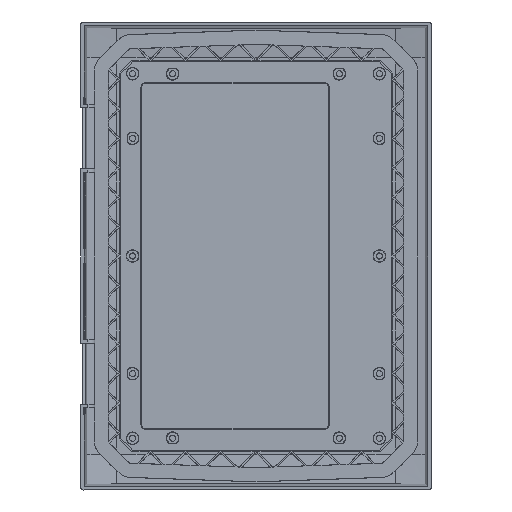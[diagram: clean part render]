
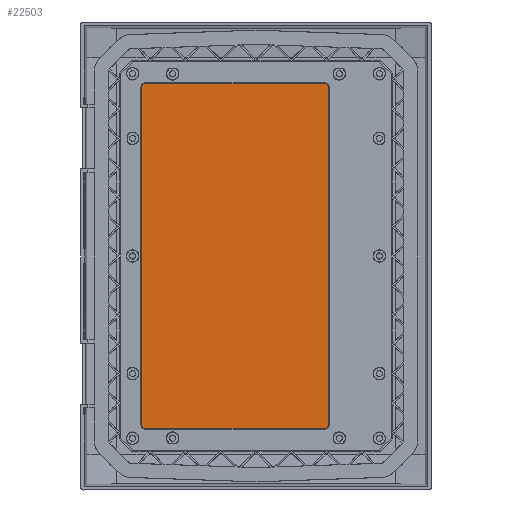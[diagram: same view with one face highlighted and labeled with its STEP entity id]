
A CAD part, front view. The second image highlights one B-rep face of the part: STEP entity #22503.
In plain terms, the highlighted planar face has unit normal (0, -1, 0) as drawn and (0, 0, 1) by its records, which use the part's own axes.
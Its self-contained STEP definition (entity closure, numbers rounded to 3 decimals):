
#423 = CARTESIAN_POINT ( 'NONE',  ( 79.5, 143.5, 0. ) ) ;
#518 = DIRECTION ( 'NONE',  ( 0., 0., 1. ) ) ;
#521 = CARTESIAN_POINT ( 'NONE',  ( 76., -147., 0. ) ) ;
#657 = DIRECTION ( 'NONE',  ( 1., 0., 0. ) ) ;
#746 = EDGE_CURVE ( 'NONE', #19178, #21181, #8852, .T. ) ;
#1014 = LINE ( 'NONE', #4512, #15837 ) ;
#1974 = AXIS2_PLACEMENT_3D ( 'NONE', #13546, #17416, #6271 ) ;
#2265 = EDGE_CURVE ( 'NONE', #4260, #19178, #6423, .T. ) ;
#2538 = DIRECTION ( 'NONE',  ( 0., 0., 1. ) ) ;
#2683 = CARTESIAN_POINT ( 'NONE',  ( -79.5, -143.5, 0. ) ) ;
#3742 = VECTOR ( 'NONE', #657, 1000. ) ;
#4258 = LINE ( 'NONE', #22853, #12409 ) ;
#4260 = VERTEX_POINT ( 'NONE', #521 ) ;
#4512 = CARTESIAN_POINT ( 'NONE',  ( -79.5, 0., 0. ) ) ;
#4576 = ORIENTED_EDGE ( 'NONE', *, *, #746, .T. ) ;
#5102 = CIRCLE ( 'NONE', #19021, 3.5 ) ;
#5579 = VERTEX_POINT ( 'NONE', #23022 ) ;
#5804 = EDGE_CURVE ( 'NONE', #8055, #20718, #5102, .T. ) ;
#6271 = DIRECTION ( 'NONE',  ( -1., 0., 0. ) ) ;
#6423 = CIRCLE ( 'NONE', #18576, 3.5 ) ;
#7083 = ORIENTED_EDGE ( 'NONE', *, *, #20243, .T. ) ;
#8017 = CIRCLE ( 'NONE', #1974, 3.5 ) ;
#8055 = VERTEX_POINT ( 'NONE', #2683 ) ;
#8132 = CARTESIAN_POINT ( 'NONE',  ( -76., -147., 0. ) ) ;
#8852 = LINE ( 'NONE', #21829, #23041 ) ;
#9468 = PLANE ( 'NONE',  #20649 ) ;
#9885 = DIRECTION ( 'NONE',  ( 0., -1., 0. ) ) ;
#10550 = ORIENTED_EDGE ( 'NONE', *, *, #10842, .T. ) ;
#10715 = DIRECTION ( 'NONE',  ( 1., 0., 0. ) ) ;
#10738 = DIRECTION ( 'NONE',  ( 0., 1., 0. ) ) ;
#10842 = EDGE_CURVE ( 'NONE', #18894, #8055, #1014, .T. ) ;
#11461 = ORIENTED_EDGE ( 'NONE', *, *, #5804, .T. ) ;
#12167 = EDGE_LOOP ( 'NONE', ( #10550, #11461, #21685, #21164, #4576, #19775, #7083, #20652 ) ) ;
#12186 = LINE ( 'NONE', #19223, #3742 ) ;
#12409 = VECTOR ( 'NONE', #13425, 1000. ) ;
#12962 = CARTESIAN_POINT ( 'NONE',  ( 76., 143.5, 0. ) ) ;
#13425 = DIRECTION ( 'NONE',  ( -1., 0., 0. ) ) ;
#13482 = CARTESIAN_POINT ( 'NONE',  ( 79.5, -143.5, 0. ) ) ;
#13532 = FACE_OUTER_BOUND ( 'NONE', #12167, .T. ) ;
#13546 = CARTESIAN_POINT ( 'NONE',  ( -76., 143.5, 0. ) ) ;
#13921 = CIRCLE ( 'NONE', #14443, 3.5 ) ;
#14443 = AXIS2_PLACEMENT_3D ( 'NONE', #12962, #18303, #14802 ) ;
#14616 = CARTESIAN_POINT ( 'NONE',  ( -76., -143.5, 0. ) ) ;
#14802 = DIRECTION ( 'NONE',  ( -1., 0., 0. ) ) ;
#14815 = EDGE_CURVE ( 'NONE', #21181, #5579, #13921, .T. ) ;
#15361 = DIRECTION ( 'NONE',  ( -1., 0., 0. ) ) ;
#15542 = CARTESIAN_POINT ( 'NONE',  ( 0., 0., 0. ) ) ;
#15837 = VECTOR ( 'NONE', #9885, 1000. ) ;
#17416 = DIRECTION ( 'NONE',  ( 0., 0., 1. ) ) ;
#17418 = VERTEX_POINT ( 'NONE', #23180 ) ;
#17460 = CARTESIAN_POINT ( 'NONE',  ( -79.5, 143.5, 0. ) ) ;
#18303 = DIRECTION ( 'NONE',  ( 0., 0., 1. ) ) ;
#18576 = AXIS2_PLACEMENT_3D ( 'NONE', #22719, #518, #15361 ) ;
#18868 = EDGE_CURVE ( 'NONE', #20718, #4260, #12186, .T. ) ;
#18894 = VERTEX_POINT ( 'NONE', #17460 ) ;
#19021 = AXIS2_PLACEMENT_3D ( 'NONE', #14616, #21811, #10715 ) ;
#19178 = VERTEX_POINT ( 'NONE', #13482 ) ;
#19223 = CARTESIAN_POINT ( 'NONE',  ( 0., -147., 0. ) ) ;
#19775 = ORIENTED_EDGE ( 'NONE', *, *, #14815, .T. ) ;
#20243 = EDGE_CURVE ( 'NONE', #5579, #17418, #4258, .T. ) ;
#20649 = AXIS2_PLACEMENT_3D ( 'NONE', #15542, #2538, #21043 ) ;
#20652 = ORIENTED_EDGE ( 'NONE', *, *, #20707, .T. ) ;
#20707 = EDGE_CURVE ( 'NONE', #17418, #18894, #8017, .T. ) ;
#20718 = VERTEX_POINT ( 'NONE', #8132 ) ;
#21043 = DIRECTION ( 'NONE',  ( 1., 0., 0. ) ) ;
#21164 = ORIENTED_EDGE ( 'NONE', *, *, #2265, .T. ) ;
#21181 = VERTEX_POINT ( 'NONE', #423 ) ;
#21685 = ORIENTED_EDGE ( 'NONE', *, *, #18868, .T. ) ;
#21811 = DIRECTION ( 'NONE',  ( 0., 0., 1. ) ) ;
#21829 = CARTESIAN_POINT ( 'NONE',  ( 79.5, 0., 0. ) ) ;
#22503 = ADVANCED_FACE ( 'NONE', ( #13532 ), #9468, .T. ) ;
#22719 = CARTESIAN_POINT ( 'NONE',  ( 76., -143.5, 0. ) ) ;
#22853 = CARTESIAN_POINT ( 'NONE',  ( 0., 147., 0. ) ) ;
#23022 = CARTESIAN_POINT ( 'NONE',  ( 76., 147., 0. ) ) ;
#23041 = VECTOR ( 'NONE', #10738, 1000. ) ;
#23180 = CARTESIAN_POINT ( 'NONE',  ( -76., 147., 0. ) ) ;
